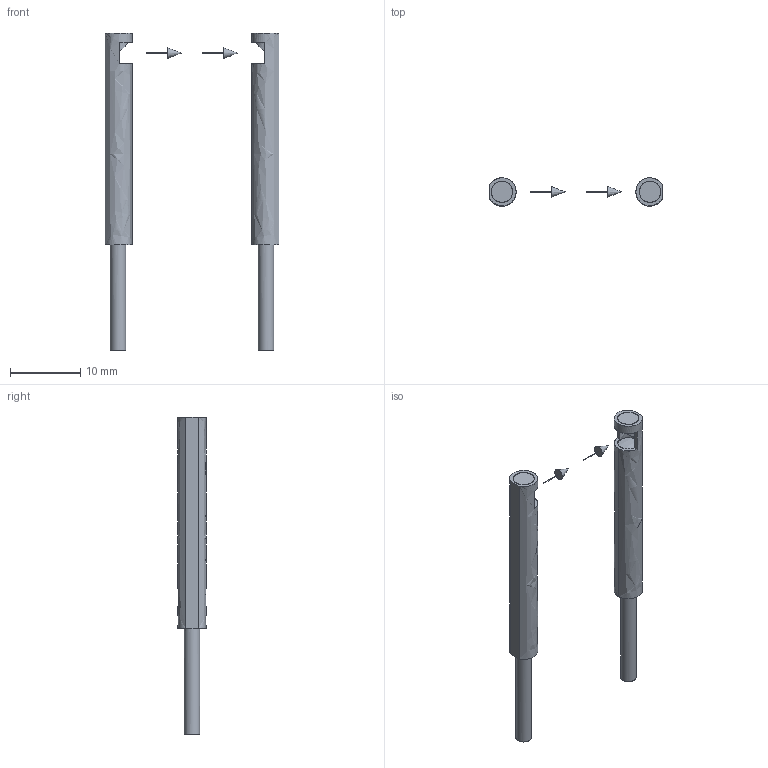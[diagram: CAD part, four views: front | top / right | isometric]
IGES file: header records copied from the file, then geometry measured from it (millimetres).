
Start section: C
Global section: file name: EE10632.igs; native system:  By UGS Corp.; preprocessor: XPlus GENERIC/IGES 3.0; author: Author; organization: Title; date: 20150506.131615; units: millimetre
Bounding box: 24.6 x 4 x 45 mm (x, y, z)
Surface area: 1052.7 mm2 (no closed solid volume)
Topology: 0 solids, 0 shells, 44 faces, 214 edges, 212 vertices
Faces by surface type: bspline 44
